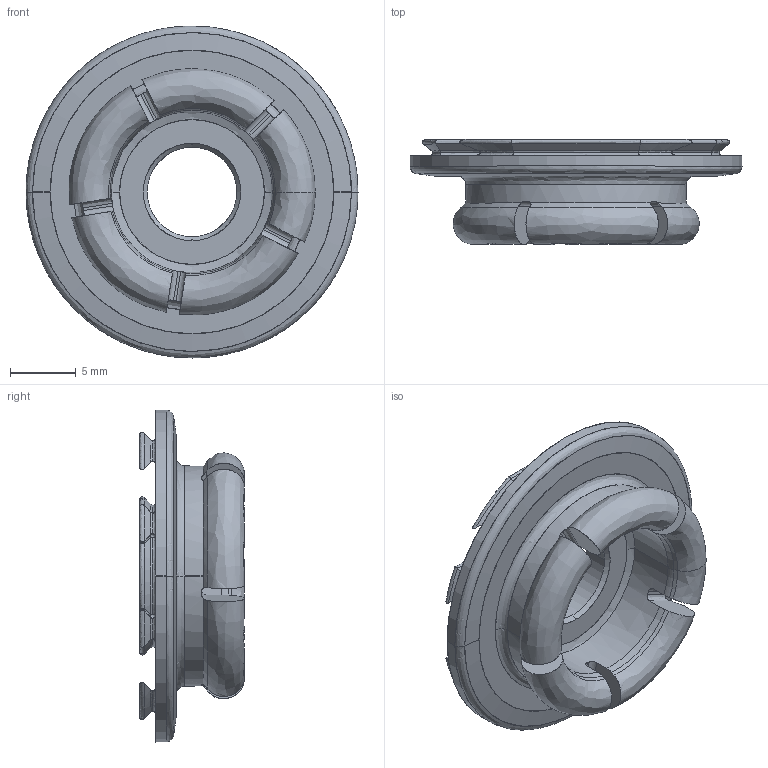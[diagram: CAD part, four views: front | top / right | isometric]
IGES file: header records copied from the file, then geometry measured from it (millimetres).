
Start section: SolidWorks IGES file using analytic representation for surfaces
Global section: file name: D:\Blender\Clients\FAS - Fastmount\FAS000 - General\Customer files\Clip Geometry\VL - Very Low Profile Range\IGES\VL-M3.IGS; native system: SolidWorks 2018; preprocessor: SolidWorks 2018; author: Evan; date: 190204.095047; units: millimetre
Bounding box: 25.24 x 7.97 x 25.24 mm (x, y, z)
Surface area: 1908.6 mm2 (no closed solid volume)
Topology: 0 solids, 0 shells, 217 faces, 1943 edges, 1935 vertices
Faces by surface type: bspline 128, revolution 89
